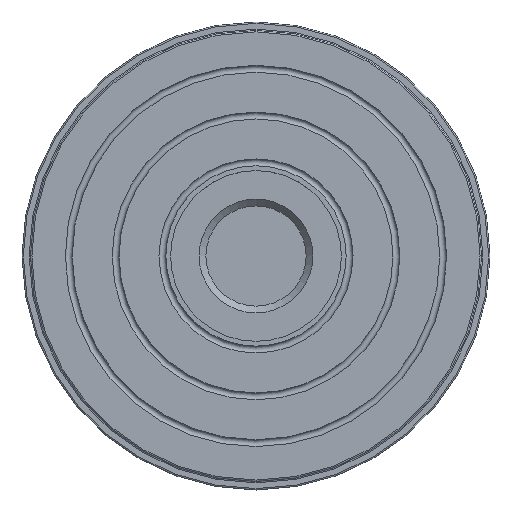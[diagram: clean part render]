
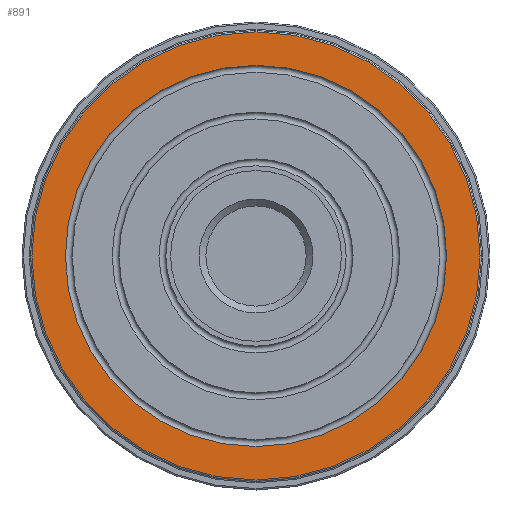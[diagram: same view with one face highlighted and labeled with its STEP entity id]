
A CAD part, top view. The second image highlights one B-rep face of the part: STEP entity #891.
In plain terms, the highlighted planar face has unit normal (0, 0, 1).
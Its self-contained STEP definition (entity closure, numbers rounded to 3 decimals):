
#891=ADVANCED_FACE('',(#1655,#1657),#1659,.T.);
#1655=FACE_BOUND('',#1656,.T.);
#1656=EDGE_LOOP('',(#4923));
#1657=FACE_BOUND('',#1658,.T.);
#1658=EDGE_LOOP('',(#4924));
#1659=PLANE('',#1660);
#1660=AXIS2_PLACEMENT_3D('',#1661,#1662,#1663);
#1661=CARTESIAN_POINT('',(0.,0.,0.));
#1662=DIRECTION('',(0.,0.,1.));
#1663=DIRECTION('',(0.,1.,0.));
#4923=ORIENTED_EDGE('',*,*,#5292,.F.);
#4924=ORIENTED_EDGE('',*,*,#5294,.T.);
#5292=EDGE_CURVE('',#5760,#5760,#5761,.T.);
#5294=EDGE_CURVE('',#5764,#5764,#5765,.T.);
#5760=VERTEX_POINT('',#8120);
#5761=CIRCLE('',#8121,32.8);
#5764=VERTEX_POINT('',#8130);
#5765=CIRCLE('',#8131,27.9);
#8120=CARTESIAN_POINT('',(0.,32.8,0.));
#8121=AXIS2_PLACEMENT_3D('',#8122,#8123,#8124);
#8122=CARTESIAN_POINT('',(0.,0.,0.));
#8123=DIRECTION('',(0.,0.,-1.));
#8124=DIRECTION('',(0.,1.,0.));
#8130=CARTESIAN_POINT('',(0.,27.9,0.));
#8131=AXIS2_PLACEMENT_3D('',#8132,#8133,#8134);
#8132=CARTESIAN_POINT('',(0.,0.,0.));
#8133=DIRECTION('',(0.,0.,-1.));
#8134=DIRECTION('',(0.,1.,0.));
